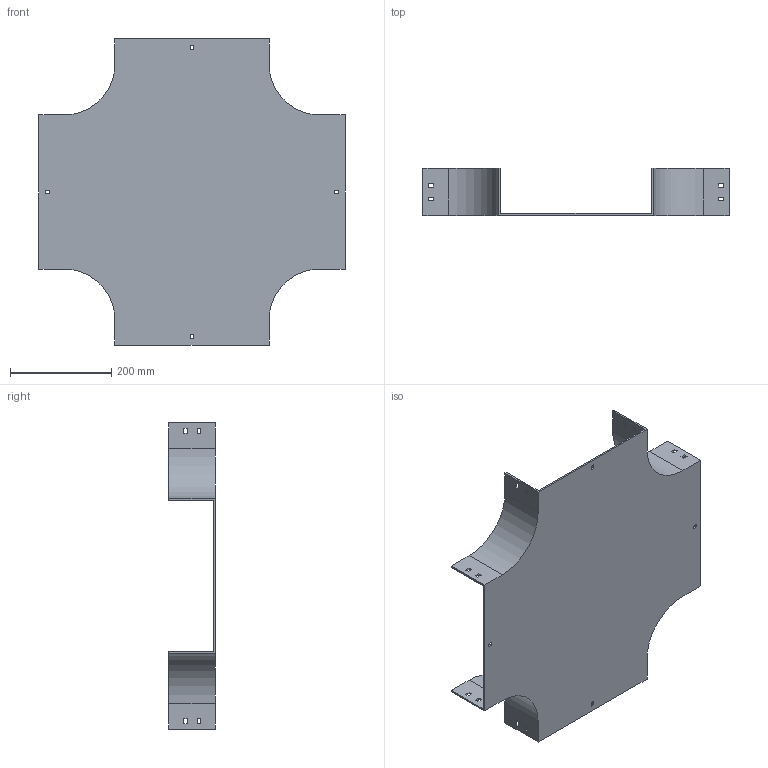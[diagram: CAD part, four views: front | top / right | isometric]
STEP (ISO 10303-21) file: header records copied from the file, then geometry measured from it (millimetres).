
FILE_DESCRIPTION (( 'STEP AP214' ), '1' );
FILE_NAME ('17B1I300.step', '2025-02-21T09:58:48', ( '' ), ( '' ), 'SwSTEP 2.0', 'SolidWorks 2023', '' );
FILE_SCHEMA (( 'AUTOMOTIVE_DESIGN' ));
Length unit declared in the file: millimetre
Products named in the file (1): 17B1I300
Bounding box: 604 x 92.5 x 604 mm (x, y, z)
Volume: 1310907.6 mm3; surface area: 761775.2 mm2
Topology: 1 solids, 1 shells, 114 faces, 336 edges, 224 vertices
Faces by surface type: plane 106, cylinder 8
Entity records: 3839 total; most frequent: CARTESIAN_POINT 675, ORIENTED_EDGE 672, DIRECTION 582, EDGE_CURVE 336, LINE 320, VECTOR 320, VERTEX_POINT 224, EDGE_LOOP 154
